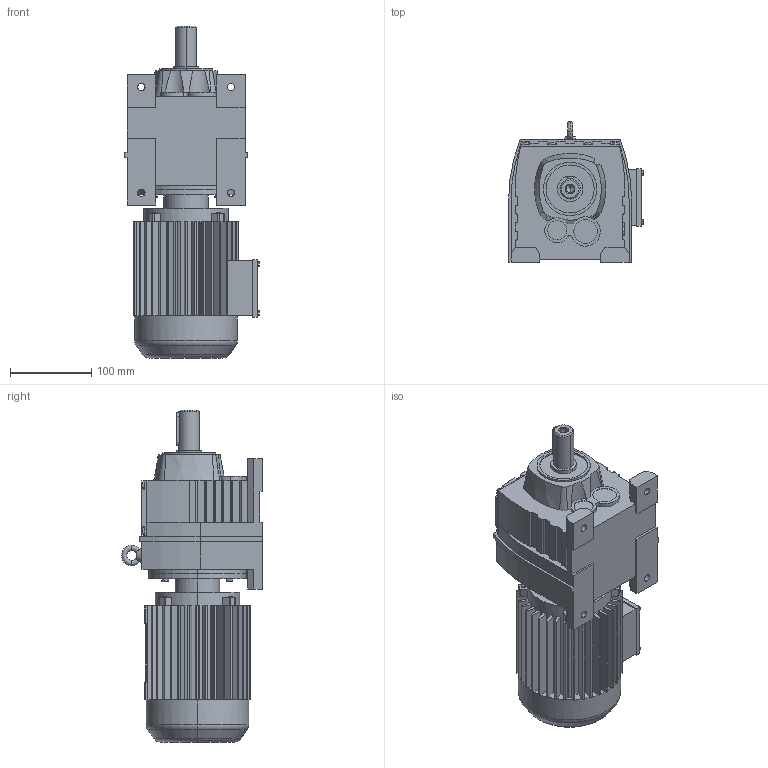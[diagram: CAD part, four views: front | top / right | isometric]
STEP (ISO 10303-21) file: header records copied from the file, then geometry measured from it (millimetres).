
FILE_DESCRIPTION(('Open CASCADE Model'),'2;1');
FILE_NAME('Open CASCADE Shape Model','2021-07-13T14:33:34',('Author'),( 'Open CASCADE'),'Open CASCADE STEP processor 6.3','Open CASCADE 6.3' ,'Unknown');
FILE_SCHEMA(('AUTOMOTIVE_DESIGN_CC2 { 1 2 10303 214 -1 1 5 4 }'));
Length unit declared in the file: millimetre
Products named in the file (3): 1_R37-Y63S; R37‵167_37.step; 萇儂_120_Y63S.step
Assembly tree (2 placements, depth 2):
  1_R37-Y63S
    R37‵167_37.step
    萇儂_120_Y63S.step
Bounding box: 165.5 x 173 x 408 mm (x, y, z)
Volume: 4720471.5 mm3; surface area: 357888 mm2
Topology: 2 solids, 2 shells, 746 faces, 1988 edges, 1285 vertices
Faces by surface type: plane 529, cylinder 187, cone 20, torus 10
Entity records: 51627 total; most frequent: CARTESIAN_POINT 13646, DIRECTION 6632, ORIENTED_EDGE 3972, PCURVE 3972, DEFINITIONAL_REPRESENTATION 3972, LINE 3719, VECTOR 3719, EDGE_CURVE 1986
